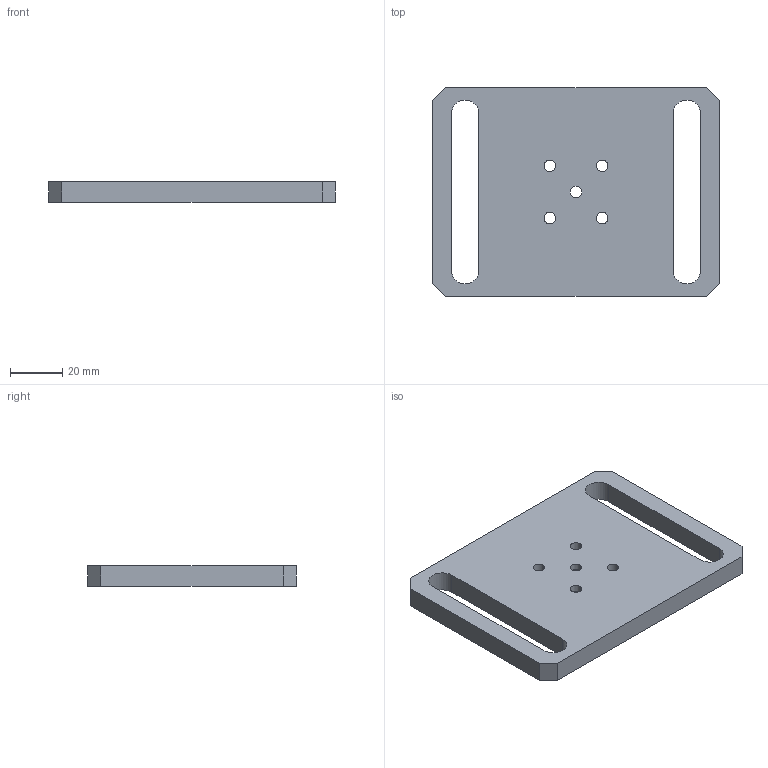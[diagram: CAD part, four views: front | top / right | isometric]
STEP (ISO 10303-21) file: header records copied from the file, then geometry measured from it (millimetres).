
FILE_DESCRIPTION(('CATIA V5 STEP Exchange'),'2;1');
FILE_NAME('D:\姚明阳\1、工装图纸\AGZ113\AGZ113.01_V1.stp','2024-11-15T05:08:52+00:00',('none'),('none'),'CATIA Version 5 Release 21 GA (IN-10)','CATIA V5 STEP AP214','none');
FILE_SCHEMA(('AUTOMOTIVE_DESIGN { 1 0 10303 214 1 1 1 1 }'));
Length unit declared in the file: millimetre
Products named in the file (1): GZ003.01_V1
Bounding box: 110 x 80 x 8 mm (x, y, z)
Volume: 57022.2 mm3; surface area: 20714.5 mm2
Topology: 1 solids, 1 shells, 43 faces, 108 edges, 72 vertices
Faces by surface type: cylinder 24, plane 19
Entity records: 1247 total; most frequent: ORIENTED_EDGE 216, CARTESIAN_POINT 211, DIRECTION 168, EDGE_CURVE 108, AXIS2_PLACEMENT_3D 79, VERTEX_POINT 72, EDGE_LOOP 62, VECTOR 60
